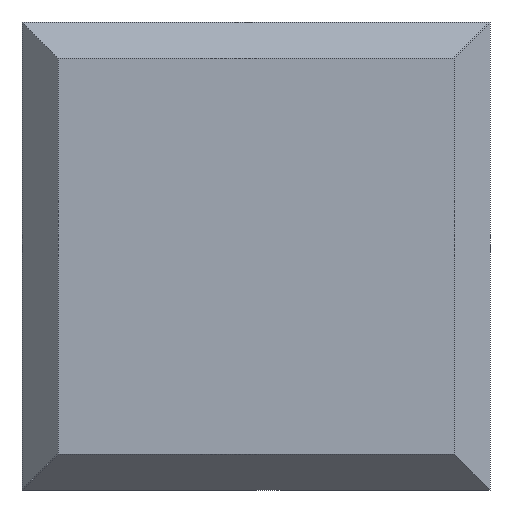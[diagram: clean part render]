
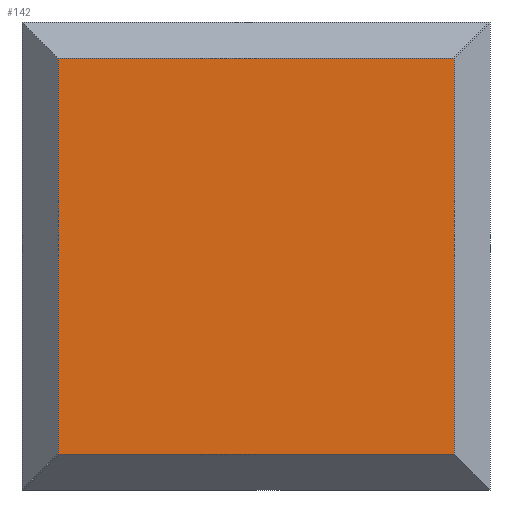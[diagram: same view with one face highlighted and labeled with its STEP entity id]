
A CAD part, front view. The second image highlights one B-rep face of the part: STEP entity #142.
In plain terms, the highlighted planar face has unit normal (0, -1, 0).
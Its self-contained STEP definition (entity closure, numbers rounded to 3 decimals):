
#37 = DIRECTION ( 'NONE',  ( -1., 0., 0. ) ) ;
#48 = CARTESIAN_POINT ( 'NONE',  ( 6.5, -6., 5.5 ) ) ;
#70 = CARTESIAN_POINT ( 'NONE',  ( -5.5, -6., -5.5 ) ) ;
#82 = ORIENTED_EDGE ( 'NONE', *, *, #908, .T. ) ;
#142 = ADVANCED_FACE ( 'NONE', ( #627 ), #632, .T. ) ;
#158 = VECTOR ( 'NONE', #935, 1000. ) ;
#192 = CARTESIAN_POINT ( 'NONE',  ( 5.5, -6., -5.5 ) ) ;
#196 = CARTESIAN_POINT ( 'NONE',  ( 5.5, -6., 5.5 ) ) ;
#222 = VECTOR ( 'NONE', #37, 1000. ) ;
#224 = VECTOR ( 'NONE', #247, 1000. ) ;
#247 = DIRECTION ( 'NONE',  ( 0., 0., -1. ) ) ;
#264 = AXIS2_PLACEMENT_3D ( 'NONE', #712, #620, #610 ) ;
#270 = CARTESIAN_POINT ( 'NONE',  ( 5.5, -6., 6.5 ) ) ;
#319 = VERTEX_POINT ( 'NONE', #192 ) ;
#357 = CARTESIAN_POINT ( 'NONE',  ( 6.5, -6., -5.5 ) ) ;
#378 = LINE ( 'NONE', #270, #224 ) ;
#390 = LINE ( 'NONE', #48, #158 ) ;
#411 = EDGE_LOOP ( 'NONE', ( #945, #82, #420, #855 ) ) ;
#416 = LINE ( 'NONE', #357, #222 ) ;
#420 = ORIENTED_EDGE ( 'NONE', *, *, #898, .F. ) ;
#423 = VERTEX_POINT ( 'NONE', #196 ) ;
#438 = CARTESIAN_POINT ( 'NONE',  ( -5.5, -6., 5.5 ) ) ;
#453 = EDGE_CURVE ( 'NONE', #423, #319, #378, .T. ) ;
#576 = DIRECTION ( 'NONE',  ( 0., 0., -1. ) ) ;
#609 = VECTOR ( 'NONE', #576, 1000. ) ;
#610 = DIRECTION ( 'NONE',  ( -1., 0., 0. ) ) ;
#620 = DIRECTION ( 'NONE',  ( 0., -1., 0. ) ) ;
#627 = FACE_OUTER_BOUND ( 'NONE', #411, .T. ) ;
#632 = PLANE ( 'NONE',  #264 ) ;
#712 = CARTESIAN_POINT ( 'NONE',  ( 5.5, -6., 5.5 ) ) ;
#715 = CARTESIAN_POINT ( 'NONE',  ( -5.5, -6., 5.5 ) ) ;
#742 = VERTEX_POINT ( 'NONE', #70 ) ;
#747 = VERTEX_POINT ( 'NONE', #438 ) ;
#760 = EDGE_CURVE ( 'NONE', #747, #423, #390, .T. ) ;
#782 = LINE ( 'NONE', #715, #609 ) ;
#855 = ORIENTED_EDGE ( 'NONE', *, *, #453, .F. ) ;
#898 = EDGE_CURVE ( 'NONE', #319, #742, #416, .T. ) ;
#908 = EDGE_CURVE ( 'NONE', #747, #742, #782, .T. ) ;
#935 = DIRECTION ( 'NONE',  ( 1., 0., 0. ) ) ;
#945 = ORIENTED_EDGE ( 'NONE', *, *, #760, .F. ) ;
